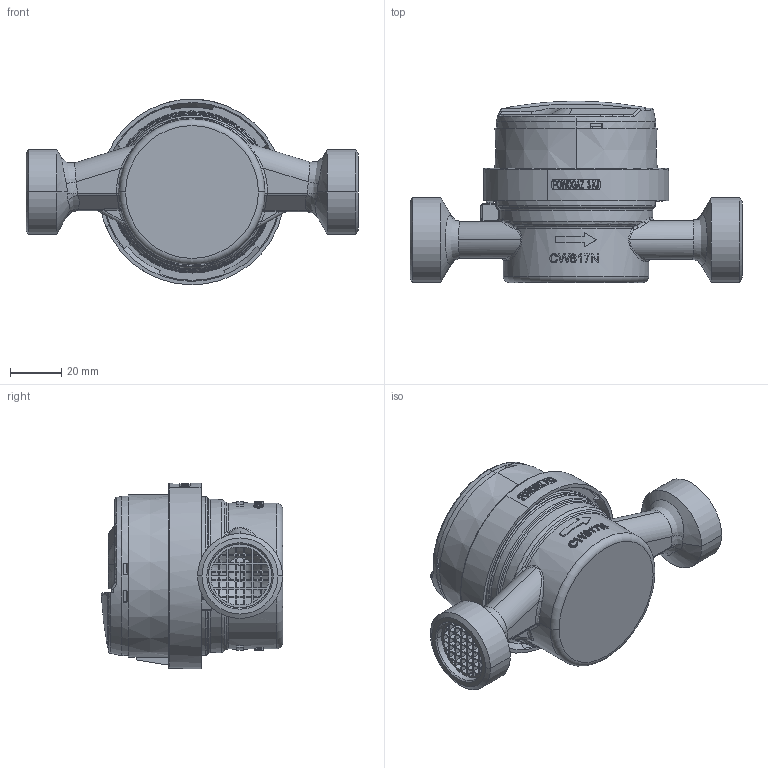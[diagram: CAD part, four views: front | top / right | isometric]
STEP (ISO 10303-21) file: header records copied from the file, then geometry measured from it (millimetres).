
FILE_DESCRIPTION (( 'STEP AP214' ), '1' );
FILE_NAME ('JS90-2,5-G1-02.STEP', '2025-06-06T07:16:17', ( '' ), ( '' ), 'SwSTEP 2.0', 'SolidWorks 2019', '' );
FILE_SCHEMA (( 'AUTOMOTIVE_DESIGN' ));
Length unit declared in the file: millimetre
Products named in the file (1): JS90-2,5-G1-02
Bounding box: 130 x 71.01 x 72.69 mm (x, y, z)
Volume: 216435.7 mm3; surface area: 59161 mm2
Topology: 3 solids, 7 shells, 1085 faces, 3078 edges, 2027 vertices
Faces by surface type: plane 571, cylinder 189, bspline 186, cone 84, torus 41, sphere 14
Entity records: 49913 total; most frequent: CARTESIAN_POINT 19805, ORIENTED_EDGE 6124, DIRECTION 4839, EDGE_CURVE 3062, VERTEX_POINT 2027, AXIS2_PLACEMENT_3D 1643, VECTOR 1553, LINE 1553
